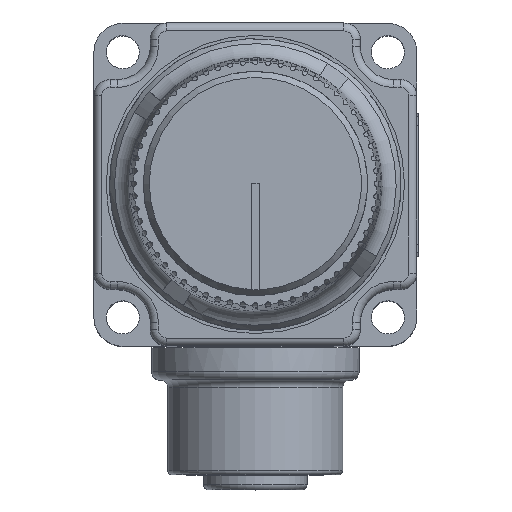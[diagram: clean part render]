
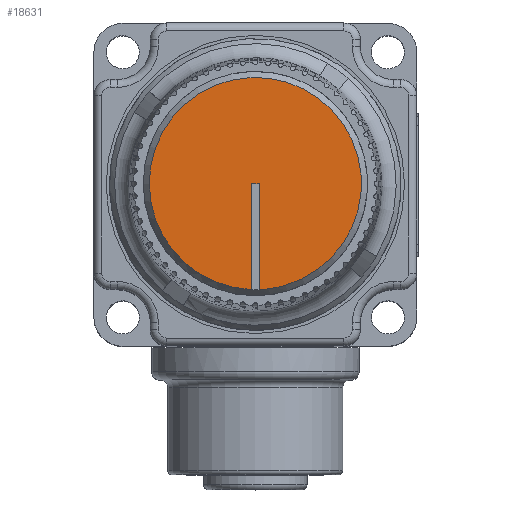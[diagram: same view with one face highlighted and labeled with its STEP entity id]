
A CAD part, top view. The second image highlights one B-rep face of the part: STEP entity #18631.
In plain terms, the highlighted planar face has unit normal (0, 0, 1).
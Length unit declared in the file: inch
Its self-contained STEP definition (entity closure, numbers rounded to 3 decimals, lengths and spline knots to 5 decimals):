
#939=PLANE('',#20272);
#1752=FACE_OUTER_BOUND('',#2844,.T.);
#2844=EDGE_LOOP('',(#14642,#14643,#14644,#14645,#14646));
#3721=CIRCLE('',#20273,0.4);
#3722=CIRCLE('',#20274,0.4);
#5199=LINE('',#31564,#6552);
#5200=LINE('',#31570,#6553);
#5201=LINE('',#31571,#6554);
#6552=VECTOR('',#24465,0.3937);
#6553=VECTOR('',#24470,0.3937);
#6554=VECTOR('',#24471,0.3937);
#8075=VERTEX_POINT('',#31562);
#8076=VERTEX_POINT('',#31563);
#8077=VERTEX_POINT('',#31565);
#8078=VERTEX_POINT('',#31567);
#8079=VERTEX_POINT('',#31569);
#10373=EDGE_CURVE('',#8075,#8076,#5199,.T.);
#10374=EDGE_CURVE('',#8076,#8077,#3721,.T.);
#10375=EDGE_CURVE('',#8077,#8078,#3722,.T.);
#10376=EDGE_CURVE('',#8078,#8079,#5200,.T.);
#10377=EDGE_CURVE('',#8079,#8075,#5201,.T.);
#14642=ORIENTED_EDGE('',*,*,#10373,.T.);
#14643=ORIENTED_EDGE('',*,*,#10374,.T.);
#14644=ORIENTED_EDGE('',*,*,#10375,.T.);
#14645=ORIENTED_EDGE('',*,*,#10376,.T.);
#14646=ORIENTED_EDGE('',*,*,#10377,.T.);
#18631=ADVANCED_FACE('',(#1752),#939,.T.);
#20272=AXIS2_PLACEMENT_3D('',#31561,#24463,#24464);
#20273=AXIS2_PLACEMENT_3D('',#31566,#24466,#24467);
#20274=AXIS2_PLACEMENT_3D('',#31568,#24468,#24469);
#24463=DIRECTION('center_axis',(0.,0.,1.));
#24464=DIRECTION('ref_axis',(1.,0.,0.));
#24465=DIRECTION('',(0.,-1.,0.));
#24466=DIRECTION('center_axis',(0.,0.,
1.));
#24467=DIRECTION('ref_axis',(0.325,0.946,0.));
#24468=DIRECTION('center_axis',(0.,0.,
1.));
#24469=DIRECTION('ref_axis',(0.325,0.946,0.));
#24470=DIRECTION('',(0.,1.,0.));
#24471=DIRECTION('',(1.,0.,0.));
#31561=CARTESIAN_POINT('Origin',(-0.39395,-0.37665,
1.82375));
#31562=CARTESIAN_POINT('',(-0.37895,0.02347,1.82375));
#31563=CARTESIAN_POINT('',(-0.37895,-0.37625,1.82375));
#31564=CARTESIAN_POINT('',(-0.37895,0.02347,1.82375));
#31565=CARTESIAN_POINT('',(-0.27977,-0.35989,1.82375));
#31566=CARTESIAN_POINT('Origin',(-0.39395,0.02347,
1.82375));
#31567=CARTESIAN_POINT('',(-0.40895,-0.37625,1.82375));
#31568=CARTESIAN_POINT('Origin',(-0.39395,0.02347,
1.82375));
#31569=CARTESIAN_POINT('',(-0.40895,0.02347,1.82375));
#31570=CARTESIAN_POINT('',(-0.40895,-0.37625,1.82375));
#31571=CARTESIAN_POINT('',(-0.40895,0.02347,1.82375));
